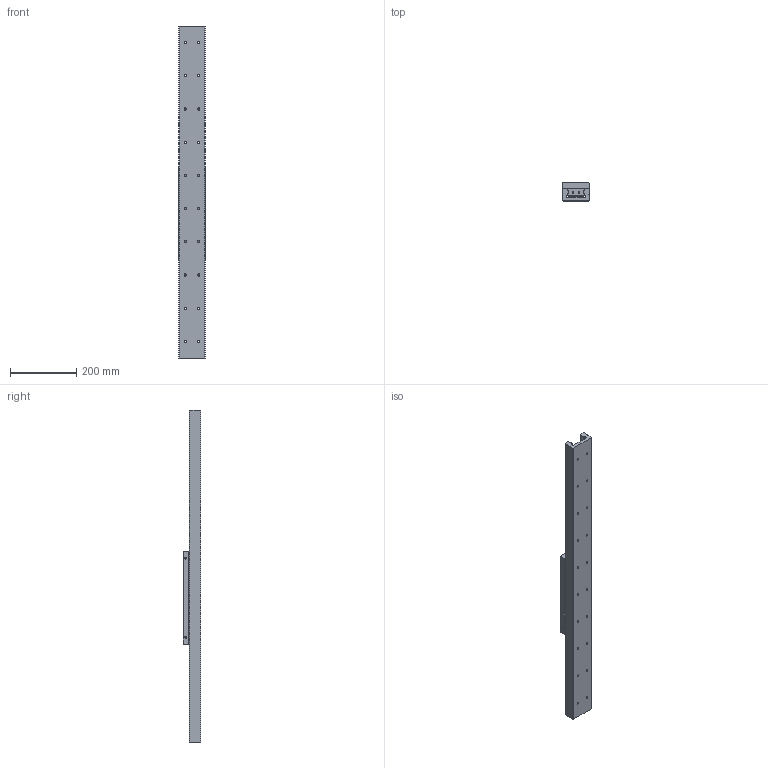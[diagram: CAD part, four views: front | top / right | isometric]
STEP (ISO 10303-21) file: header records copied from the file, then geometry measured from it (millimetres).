
FILE_DESCRIPTION (( 'STEP AP214' ), '1' );
FILE_NAME ('LSIJ8054.STEP', '2023-10-27T00:32:42', ( '' ), ( '' ), 'SwSTEP 2.0', 'SolidWorks 2019', '' );
FILE_SCHEMA (( 'AUTOMOTIVE_DESIGN' ));
Length unit declared in the file: millimetre
Products named in the file (3): LSIJ8054レール; LSIJ8054; LSIJ8054キャリッジ
Assembly tree (2 placements, depth 2):
  LSIJ8054
    LSIJ8054レール
    LSIJ8054キャリッジ
Bounding box: 80 x 54 x 1000 mm (x, y, z)
Volume: 2053361.5 mm3; surface area: 409345.6 mm2
Topology: 8 solids, 8 shells, 580 faces, 1418 edges, 930 vertices
Faces by surface type: plane 392, cylinder 116, cone 60, torus 12
Full cylindrical faces by diameter (mm): 6 x4, 6.6 x20, 6.8 x6, 7 x4, 8 x4, 11 x20, 12 x4, 19.5 x4, 24 x4, 30 x4, 38.234 x4, 47 x8
Entity records: 22325 total; most frequent: CARTESIAN_POINT 3787, DIRECTION 2588, ORIENTED_EDGE 2556, EDGE_CURVE 1278, AXIS2_PLACEMENT_3D 917, VERTEX_POINT 900, EDGE_LOOP 818, VECTOR 754
